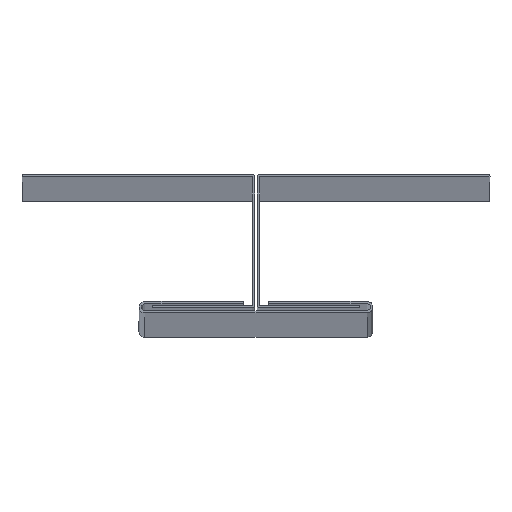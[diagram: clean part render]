
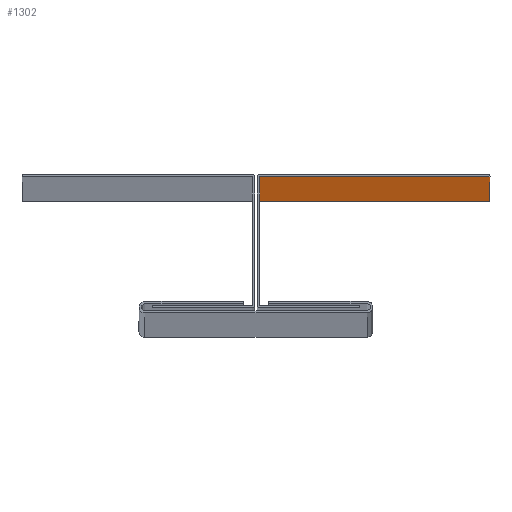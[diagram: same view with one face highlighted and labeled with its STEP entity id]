
A CAD part, top view. The second image highlights one B-rep face of the part: STEP entity #1302.
In plain terms, the highlighted planar face has unit normal (0, -1, 0).
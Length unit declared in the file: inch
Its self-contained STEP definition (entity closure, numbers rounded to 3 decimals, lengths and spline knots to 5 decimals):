
#3 = EDGE_CURVE ( 'NONE', #881, #531, #484, .T. ) ;
#33 = VERTEX_POINT ( 'NONE', #150 ) ;
#87 = PLANE ( 'NONE',  #1144 ) ;
#94 = CARTESIAN_POINT ( 'NONE',  ( 0.03, 1.12, 120. ) ) ;
#107 = ORIENTED_EDGE ( 'NONE', *, *, #565, .T. ) ;
#150 = CARTESIAN_POINT ( 'NONE',  ( 2., 1.12, 0. ) ) ;
#256 = VECTOR ( 'NONE', #568, 39.37008 ) ;
#331 = LINE ( 'NONE', #697, #1287 ) ;
#379 = CARTESIAN_POINT ( 'NONE',  ( 0.03, 1.12, 0. ) ) ;
#422 = VECTOR ( 'NONE', #1305, 39.37008 ) ;
#483 = DIRECTION ( 'NONE',  ( 0., -1., 0. ) ) ;
#484 = LINE ( 'NONE', #644, #837 ) ;
#531 = VERTEX_POINT ( 'NONE', #379 ) ;
#565 = EDGE_CURVE ( 'NONE', #741, #881, #331, .T. ) ;
#568 = DIRECTION ( 'NONE',  ( -1., 0., 0. ) ) ;
#623 = DIRECTION ( 'NONE',  ( 0., 0., -1. ) ) ;
#644 = CARTESIAN_POINT ( 'NONE',  ( 0.03, 1.12, 120. ) ) ;
#679 = EDGE_LOOP ( 'NONE', ( #815, #1265, #107, #1031 ) ) ;
#697 = CARTESIAN_POINT ( 'NONE',  ( 0.03, 1.12, 120. ) ) ;
#741 = VERTEX_POINT ( 'NONE', #1177 ) ;
#815 = ORIENTED_EDGE ( 'NONE', *, *, #934, .F. ) ;
#837 = VECTOR ( 'NONE', #623, 39.37008 ) ;
#881 = VERTEX_POINT ( 'NONE', #1233 ) ;
#895 = DIRECTION ( 'NONE',  ( -1., 0., 0. ) ) ;
#934 = EDGE_CURVE ( 'NONE', #33, #531, #1243, .T. ) ;
#1031 = ORIENTED_EDGE ( 'NONE', *, *, #3, .T. ) ;
#1061 = FACE_OUTER_BOUND ( 'NONE', #679, .T. ) ;
#1125 = DIRECTION ( 'NONE',  ( 0., 0., -1. ) ) ;
#1144 = AXIS2_PLACEMENT_3D ( 'NONE', #94, #483, #1125 ) ;
#1167 = EDGE_CURVE ( 'NONE', #741, #33, #1251, .T. ) ;
#1177 = CARTESIAN_POINT ( 'NONE',  ( 2., 1.12, 120. ) ) ;
#1196 = CARTESIAN_POINT ( 'NONE',  ( 2., 1.12, 120. ) ) ;
#1233 = CARTESIAN_POINT ( 'NONE',  ( 0.03, 1.12, 120. ) ) ;
#1243 = LINE ( 'NONE', #1335, #256 ) ;
#1251 = LINE ( 'NONE', #1196, #422 ) ;
#1265 = ORIENTED_EDGE ( 'NONE', *, *, #1167, .F. ) ;
#1287 = VECTOR ( 'NONE', #895, 39.37008 ) ;
#1302 = ADVANCED_FACE ( 'NONE', ( #1061 ), #87, .T. ) ;
#1305 = DIRECTION ( 'NONE',  ( 0., 0., -1. ) ) ;
#1335 = CARTESIAN_POINT ( 'NONE',  ( 0.03, 1.12, 0. ) ) ;
